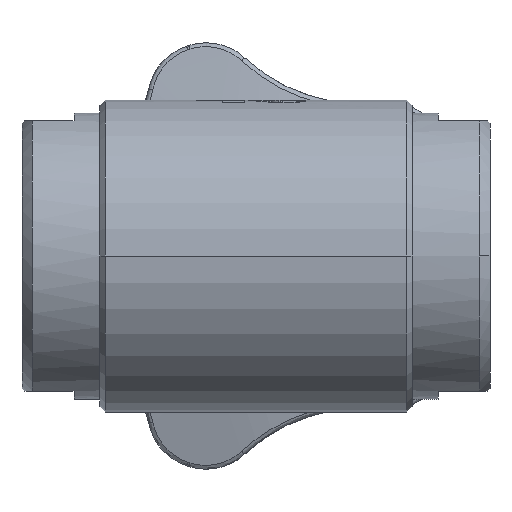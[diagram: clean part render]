
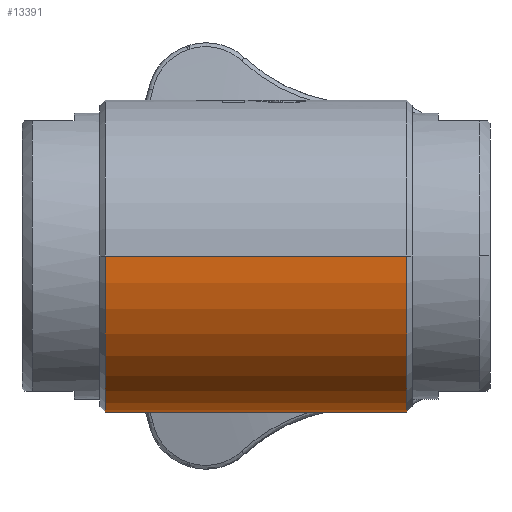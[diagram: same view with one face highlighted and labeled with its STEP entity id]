
A CAD part, front view. The second image highlights one B-rep face of the part: STEP entity #13391.
In plain terms, the highlighted cylindrical face has radius 30 mm (diameter 60 mm), a partial arc.
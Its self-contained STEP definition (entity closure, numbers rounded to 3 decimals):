
#4493=DIRECTION('',(1.,0.,0.));
#4494=VECTOR('',#4493,5.);
#4495=CARTESIAN_POINT('',(-29.,30.,
-35.));
#4496=LINE('',#4495,#4494);
#4507=CARTESIAN_POINT('',(24.,30.,-35.));
#4517=DIRECTION('',(1.,0.,0.));
#4518=VECTOR('',#4517,5.);
#4519=CARTESIAN_POINT('',(24.,30.,-35.));
#4520=LINE('',#4519,#4518);
#5217=CARTESIAN_POINT('',(29.,0.,-35.));
#5218=DIRECTION('',(1.,0.,0.));
#5219=DIRECTION('',(0.,-1.,0.));
#5220=AXIS2_PLACEMENT_3D('',#5217,#5218,#5219);
#5222=CARTESIAN_POINT('',(17.349,25.,-51.583));
#5223=CARTESIAN_POINT('',(18.147,25.553,-50.749));
#5224=CARTESIAN_POINT('',(19.571,26.58,-49.018));
#5225=CARTESIAN_POINT('',(21.248,27.843,-46.303));
#5226=CARTESIAN_POINT('',(22.51,28.819,-43.502));
#5227=CARTESIAN_POINT('',(23.377,29.503,-40.689));
#5228=CARTESIAN_POINT('',(23.891,29.913,-37.825));
#5229=CARTESIAN_POINT('',(24.,30.,-35.937));
#5230=CARTESIAN_POINT('',(24.,30.,-35.));
#5232=CARTESIAN_POINT('',(-24.,30.,-35.));
#5233=CARTESIAN_POINT('',(-24.,30.,-35.937));
#5234=CARTESIAN_POINT('',(-23.891,29.913,
-37.825));
#5235=CARTESIAN_POINT('',(-23.377,29.503,
-40.689));
#5236=CARTESIAN_POINT('',(-22.51,28.819,
-43.503));
#5237=CARTESIAN_POINT('',(-21.248,27.843,
-46.303));
#5238=CARTESIAN_POINT('',(-19.571,26.58,
-49.019));
#5239=CARTESIAN_POINT('',(-18.146,25.553,
-50.749));
#5240=CARTESIAN_POINT('',(-17.349,25.,-51.583));
#5242=CARTESIAN_POINT('',(-29.,0.,-35.));
#5243=DIRECTION('',(-1.,0.,0.));
#5244=DIRECTION('',(0.,1.,0.));
#5245=AXIS2_PLACEMENT_3D('',#5242,#5243,#5244);
#5247=DIRECTION('',(1.,0.,0.));
#5248=VECTOR('',#5247,58.);
#5249=CARTESIAN_POINT('',(-29.,-30.,
-35.));
#5250=LINE('',#5249,#5248);
#5261=DIRECTION('',(1.,0.,0.));
#5262=VECTOR('',#5261,34.699);
#5263=CARTESIAN_POINT('',(-17.349,25.,-51.583));
#5264=LINE('',#5263,#5262);
#6390=VERTEX_POINT('',#5232);
#6391=VERTEX_POINT('',#5240);
#6392=VERTEX_POINT('',#4507);
#6394=VERTEX_POINT('',#5222);
#6437=CARTESIAN_POINT('',(-29.,30.,-35.));
#6438=CARTESIAN_POINT('',(-29.,-30.,-35.));
#6439=VERTEX_POINT('',#6437);
#6440=VERTEX_POINT('',#6438);
#6445=CARTESIAN_POINT('',(29.,-30.,-35.));
#6446=CARTESIAN_POINT('',(29.,30.,-35.));
#6447=VERTEX_POINT('',#6445);
#6448=VERTEX_POINT('',#6446);
#13372=CARTESIAN_POINT('',(-30.,0.,-35.));
#13373=DIRECTION('',(1.,0.,0.));
#13374=DIRECTION('',(0.,-1.,0.));
#13375=AXIS2_PLACEMENT_3D('',#13372,#13373,#13374);
#13376=CYLINDRICAL_SURFACE('',#13375,30.);
#13377=ORIENTED_EDGE('',*,*,#13001,.T.);
#13378=ORIENTED_EDGE('',*,*,#13131,.F.);
#13380=ORIENTED_EDGE('',*,*,#13379,.F.);
#13382=ORIENTED_EDGE('',*,*,#13381,.F.);
#13384=ORIENTED_EDGE('',*,*,#13383,.F.);
#13385=ORIENTED_EDGE('',*,*,#13123,.F.);
#13387=ORIENTED_EDGE('',*,*,#13386,.T.);
#13388=ORIENTED_EDGE('',*,*,#13119,.T.);
#13389=EDGE_LOOP('',(#13377,#13378,#13380,#13382,#13384,#13385,#13387,#13388));
#13390=FACE_OUTER_BOUND('',#13389,.F.);
#13391=ADVANCED_FACE('',(#13390),#13376,.T.);
#5221=CIRCLE('',#5220,30.);
#5231=B_SPLINE_CURVE_WITH_KNOTS('',3,(#5222,#5223,#5224,#5225,#5226,#5227,#5228,
#5229,#5230),.UNSPECIFIED.,.F.,.F.,(4,1,1,1,1,1,4),(0.,0.167,
0.333,0.5,0.667,0.833,1.),
.UNSPECIFIED.);
#5241=B_SPLINE_CURVE_WITH_KNOTS('',3,(#5232,#5233,#5234,#5235,#5236,#5237,#5238,
#5239,#5240),.UNSPECIFIED.,.F.,.F.,(4,1,1,1,1,1,4),(0.,0.167,
0.333,0.5,0.667,0.833,1.),
.UNSPECIFIED.);
#5246=CIRCLE('',#5245,30.);
#13001=EDGE_CURVE('',#6447,#6448,#5221,.T.);
#13119=EDGE_CURVE('',#6440,#6447,#5250,.T.);
#13123=EDGE_CURVE('',#6439,#6390,#4496,.T.);
#13131=EDGE_CURVE('',#6392,#6448,#4520,.T.);
#13379=EDGE_CURVE('',#6394,#6392,#5231,.T.);
#13381=EDGE_CURVE('',#6391,#6394,#5264,.T.);
#13383=EDGE_CURVE('',#6390,#6391,#5241,.T.);
#13386=EDGE_CURVE('',#6439,#6440,#5246,.T.);
